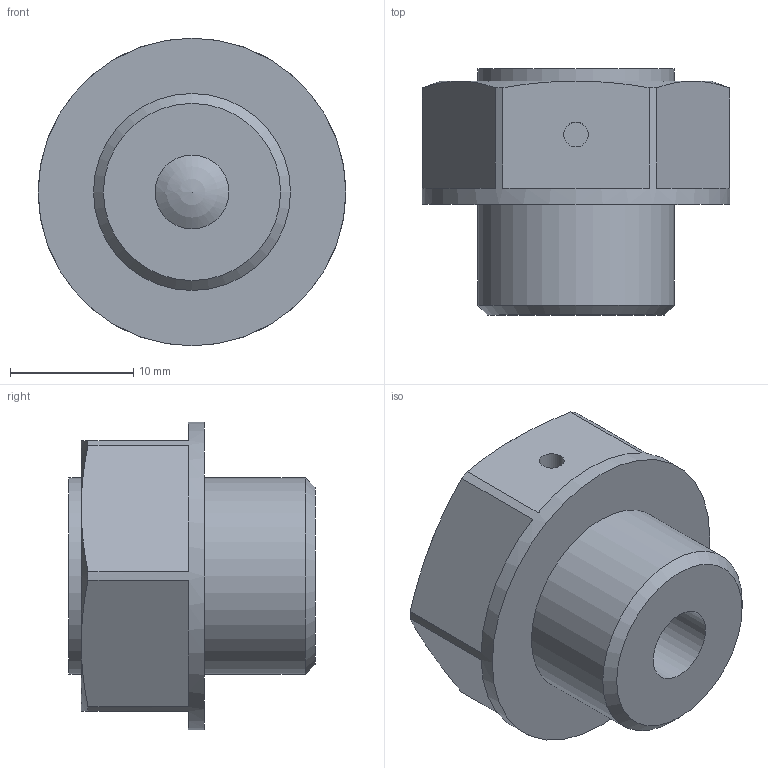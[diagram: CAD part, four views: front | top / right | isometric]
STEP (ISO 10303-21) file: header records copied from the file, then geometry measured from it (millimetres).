
FILE_DESCRIPTION( ( 'STEP AP203' ), '1' );
FILE_NAME( 'C:/Temp/Ganter_Step_05_03_2020/data/3_5/gn883/Breather valve GN 883-M16x1,5-20-A-MS.stp', '2020-03-12T13:42:46', ( 'License CC BY-ND 4.0' ), ( 'CADENAS' ), ' ', 'PARTsolutions', ' ' );
FILE_SCHEMA( ( 'CONFIG_CONTROL_DESIGN' ) );
Length unit declared in the file: millimetre
Products named in the file (1): _Breather valve GN 883-M16x1,5-20-A-MS
Bounding box: 25 x 20 x 25 mm (x, y, z)
Volume: 6110.6 mm3; surface area: 2370.8 mm2
Topology: 1 solids, 1 shells, 30 faces, 68 edges, 43 vertices
Faces by surface type: plane 17, cone 7, cylinder 5, sphere 1
Full cylindrical faces by diameter (mm): 2 x1, 6 x1, 16 x2, 25 x1
Entity records: 866 total; most frequent: CARTESIAN_POINT 190, DIRECTION 136, ORIENTED_EDGE 116, AXIS2_PLACEMENT_3D 59, EDGE_CURVE 58, VERTEX_POINT 41, EDGE_LOOP 40, FACE_OUTER_BOUND 35
